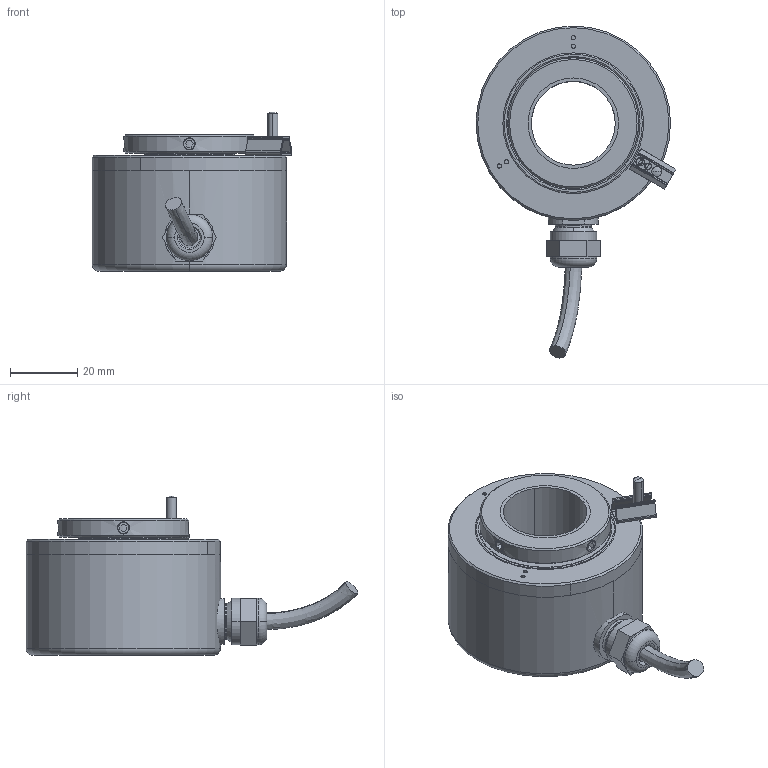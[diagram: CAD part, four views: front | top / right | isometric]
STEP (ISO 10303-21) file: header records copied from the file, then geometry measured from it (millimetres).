
FILE_DESCRIPTION (( 'STEP AP214' ), '1' );
FILE_NAME ('Step 8.5821.15X1.XXXX.STEP', '2012-02-23T14:41:47', ( 'IST GmbH' ), ( '' ), 'SwSTEP 2.0', 'SolidWorks 2009', '' );
FILE_SCHEMA (( 'AUTOMOTIVE_DESIGN' ));
Length unit declared in the file: millimetre
Products named in the file (1): Step 8.5821.15X1.XXXX
Bounding box: 59.61 x 98.99 x 47.59 mm (x, y, z)
Surface area: 22928.9 mm2 (no closed solid volume)
Topology: 0 solids, 22 shells, 167 faces, 583 edges, 439 vertices
Faces by surface type: cylinder 67, plane 62, cone 22, torus 12, bspline 2, sphere 2
Entity records: 9025 total; most frequent: CARTESIAN_POINT 2000, DIRECTION 1122, ORIENTED_EDGE 908, EDGE_CURVE 583, VERTEX_POINT 439, AXIS2_PLACEMENT_3D 407, VECTOR 308, LINE 308
